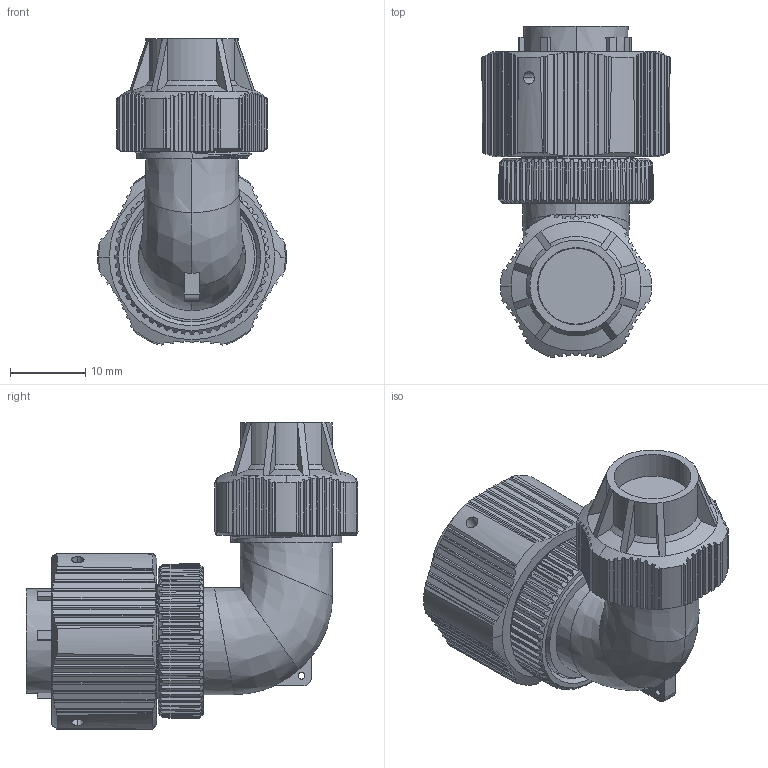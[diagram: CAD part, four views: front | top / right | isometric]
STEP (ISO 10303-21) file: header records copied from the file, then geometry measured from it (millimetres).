
FILE_DESCRIPTION((''),'2;1');
FILE_NAME('WY16J10TU2_ASM','2017-03-21T',('Administrator'),(''),'PRO/ENGINEER BY PARAMETRIC TECHNOLOGY CORPORATION, 2015240','PRO/ENGINEER BY PARAMETRIC TECHNOLOGY CORPORATION, 2015240','');
FILE_SCHEMA(('CONFIG_CONTROL_DESIGN'));
Length unit declared in the file: millimetre
Products named in the file (4): PRT0005; WY16J3TU_ASM_ASM; WY16J10TU_ASM_ASM; WY16J10TU2_ASM
Assembly tree (3 placements, depth 4):
  WY16J10TU2_ASM
    WY16J10TU_ASM_ASM
      WY16J3TU_ASM_ASM
        PRT0005
Bounding box: 24.98 x 44 x 40.56 mm (x, y, z)
Volume: 11313.7 mm3; surface area: 9899.9 mm2
Topology: 1 solids, 3 shells, 979 faces, 2879 edges, 1889 vertices
Faces by surface type: plane 455, cylinder 230, bspline 140, cone 134, sphere 20
Entity records: 41196 total; most frequent: CARTESIAN_POINT 17655, ORIENTED_EDGE 5718, DIRECTION 3802, EDGE_CURVE 2859, VERTEX_POINT 1889, AXIS2_PLACEMENT_3D 1470, B_SPLINE_CURVE_WITH_KNOTS 1375, EDGE_LOOP 1014
